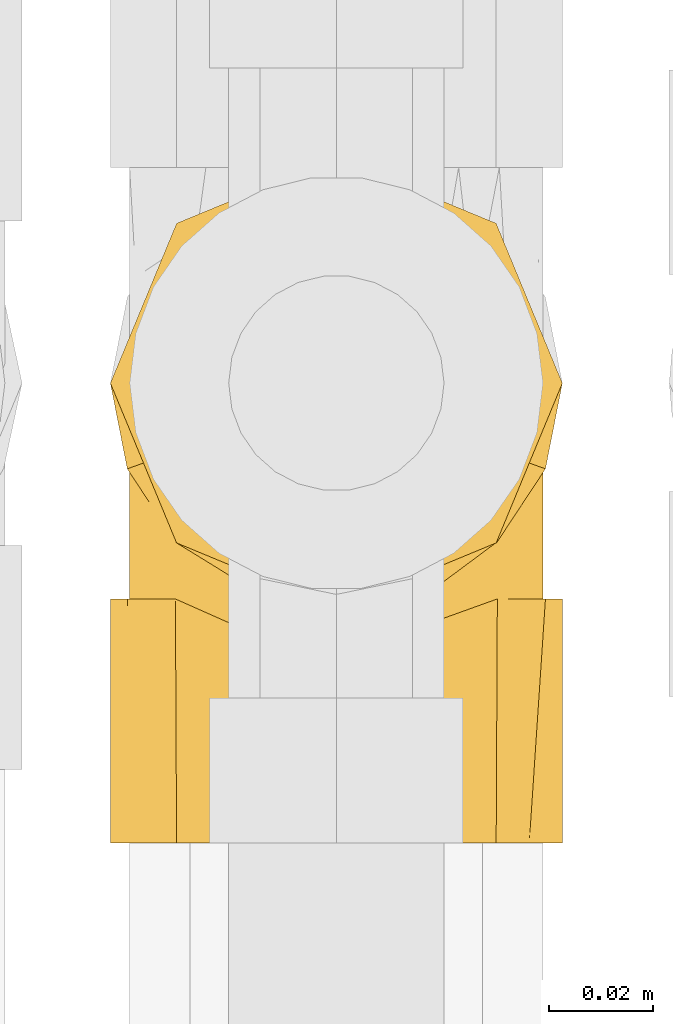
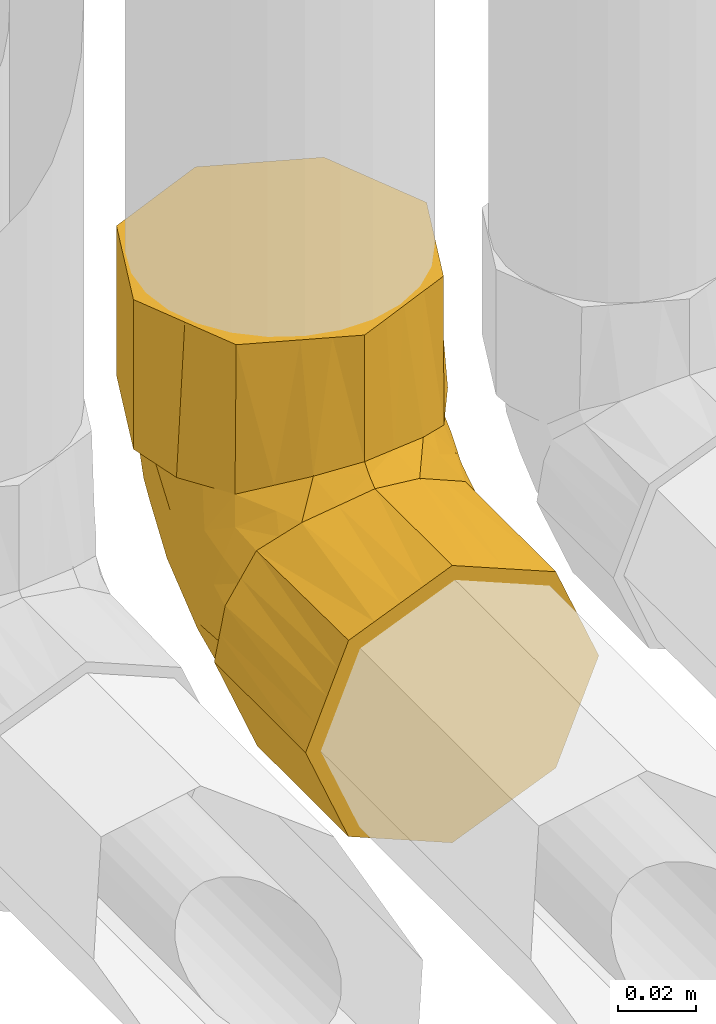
# One storey, part 234 of 652: 1 covering.
"""IFC2X3 building model written with IfcOpenShell, lengths in millimetres."""

from ifc_helpers import new_model, entity, si_unit, converted_unit, direction, frame, origin, place, context, subcontext, project, spatial, faceted_brep, material, type_object, element, save


model = new_model("IFC2X3")

# Units and contexts
model_context = context("Model", 3, precision=0.01, world=frame((0.0, 0.0, 308426.39999999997)), true_north=direction((6.123233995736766e-17, 1.0)))
plan_context = context("Plan", 3, precision=0.01, world=frame((0.0, 0.0, 308426.39999999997)), true_north=direction((6.123233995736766e-17, 1.0)))
body_context = subcontext(model_context, "Body", "Model", "MODEL_VIEW")
ifc_project = project(units=[si_unit("LENGTHUNIT", "METRE", prefix="MILLI"), si_unit("AREAUNIT", "SQUARE_METRE"), si_unit("VOLUMEUNIT", "CUBIC_METRE"), converted_unit("PLANEANGLEUNIT", "DEGREE", entity("IfcPlaneAngleMeasure", 0.017453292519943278), si_unit("PLANEANGLEUNIT", "RADIAN"), dimensions=[0, 0, 0, 0, 0, 0, 0])], contexts=[model_context, plan_context])

# Site, building, storey
site_placement = place(None, origin())
site = spatial("IfcSite", under=ifc_project, at=site_placement, Name="Default", CompositionType="ELEMENT")
building_placement = place(site_placement, origin())
building = spatial("IfcBuilding", under=site, at=building_placement, CompositionType="ELEMENT")
storey_placement = place(building_placement, frame((0.0, 0.0, 1730.6999999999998)))
storey = spatial("IfcBuildingStorey", under=building, at=storey_placement, Name="EG_Produktion_FFB", CompositionType="ELEMENT", Elevation=1730.6999999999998)

# Covering
ifc_material = material(Name="Dämmung - Armaflex-Schlauch")
covering_type = type_object("IfcCoveringType", Name="Rohrdämmung außen:Armaflex-Schlauch", PredefinedType="INSULATION")
covering_placement = place(storey_placement, frame((76635.09072776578, 51549.91060396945, 2355.090727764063)))
element("IfcCovering", 1, at=covering_placement, inside=storey, type_object=covering_type, material=ifc_material, Name="Rohrdämmung außen:Armaflex-Schlauch", ObjectType="Rohrdämmung außen:Armaflex-Schlauch", PredefinedType="INSULATION", context=body_context, shape_type="Brep", body=[
    faceted_brep([(1.5952722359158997, 46.75225000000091, 44.909272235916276), (3.2140241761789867, 46.75225000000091, 53.12476149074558), (4.83277611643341, 46.75225000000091, 61.34025074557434), (9.444991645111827, 46.75225000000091, 68.32552362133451), (14.057207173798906, 46.75225000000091, 75.3107964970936), (10.189917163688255, 46.75225000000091, 66.46746776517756), (6.322627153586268, 46.75225000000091, 57.62413903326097), (5.271772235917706, 46.75225000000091, 47.97735876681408), (8.801210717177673, 46.75225000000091, 40.30004078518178), (12.330649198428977, 46.75225000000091, 32.62272280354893), (16.11426416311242, 46.75225000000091, 24.39251412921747), (19.897879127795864, 46.75225000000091, 16.162305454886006), (28.598847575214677, 46.75225000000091, 13.007380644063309), (36.75405990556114, 46.75225000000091, 10.050344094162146), (44.909272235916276, 46.75225000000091, 7.0933075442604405), (52.722214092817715, 46.75225000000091, 10.991250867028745), (60.53515594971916, 46.75225000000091, 14.88919418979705), (68.3480978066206, 46.75225000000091, 18.787137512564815), (76.16103966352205, 46.75225000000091, 22.685080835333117), (79.16192692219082, 46.75225000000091, 31.736081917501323), (81.8543495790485, 46.75225000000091, 39.85672034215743), (84.54677223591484, 46.75225000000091, 47.97735876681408), (83.74827741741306, 46.75225000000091, 51.67763962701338), (82.94978259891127, 46.75225000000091, 55.37792048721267), (81.71182968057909, 46.75225000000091, 61.11468093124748), (80.47387676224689, 46.75225000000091, 66.85144137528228), (75.76133729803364, 46.75225000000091, 75.3107964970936), (80.37355282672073, 46.75225000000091, 68.32552362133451), (84.98576835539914, 46.75225000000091, 61.34025074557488), (86.43872591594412, 46.75225000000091, 53.966201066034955), (88.22327223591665, 46.75225000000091, 44.909272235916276), (84.75898186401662, 46.75225000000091, 36.54573543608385), (81.88008379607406, 46.75225000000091, 29.595460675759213), (78.70848957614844, 46.75225000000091, 21.93855489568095), (75.53689535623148, 46.75225000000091, 14.28164911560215), (67.87998957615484, 46.75225000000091, 11.11005489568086), (60.223083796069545, 46.75225000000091, 7.938460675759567), (53.27280775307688, 46.75225000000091, 5.059562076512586), (44.909272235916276, 46.75225000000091, 1.5952722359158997), (36.54573552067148, 46.75225000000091, 5.0595625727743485), (29.595460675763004, 46.75225000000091, 7.938460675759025), (21.938554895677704, 46.75225000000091, 11.110054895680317), (14.281649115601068, 46.75225000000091, 14.281649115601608), (11.110054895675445, 46.75225000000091, 21.93855489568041), (7.938460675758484, 46.75225000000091, 29.595460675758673), (5.059562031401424, 46.75225000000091, 36.545736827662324), (44.909272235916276, 0.0, 1.5952722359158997), (52.56617801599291, 0.0, 4.766866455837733), (60.223083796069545, 0.0, 7.938460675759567), (67.87998957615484, 0.0, 11.110054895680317), (75.53689535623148, 0.0, 14.28164911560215), (78.4157932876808, 0.0, 21.231923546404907), (81.29469121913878, 0.0, 28.18219797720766), (84.75898172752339, 0.0, 36.54573510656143), (88.22327223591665, 0.0, 44.909272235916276), (85.05167801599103, 0.0, 52.56617801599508), (81.88008379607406, 0.0, 60.22308379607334), (78.7084895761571, 0.0, 67.8799895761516), (75.53689535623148, 0.0, 75.5368953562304), (67.87998957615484, 0.0, 78.70848957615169), (60.223083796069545, 0.0, 81.88008379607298), (52.56617801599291, 0.0, 85.05167801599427), (44.909272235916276, 0.0, 88.22327223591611), (36.54573690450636, 0.0, 84.75898247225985), (29.595460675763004, 0.0, 81.88008379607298), (21.938554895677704, 0.0, 78.70848957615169), (14.281649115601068, 0.0, 75.5368953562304), (11.110054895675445, 0.0, 67.8799895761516), (7.938460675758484, 0.0, 60.22308379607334), (4.766866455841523, 0.0, 52.56617801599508), (1.5952722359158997, 0.0, 44.909272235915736), (4.766866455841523, 0.0, 37.252366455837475), (7.938460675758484, 0.0, 29.595460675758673), (11.110054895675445, 0.0, 21.938554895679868), (14.281649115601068, 0.0, 14.281649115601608), (21.938554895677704, 0.0, 11.110054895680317), (29.595460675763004, 0.0, 7.938460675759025), (37.25236645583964, 0.0, 4.766866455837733), (58.75537900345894, 40.63540735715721, 85.9505675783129), (54.574402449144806, 40.303936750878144, 86.63683448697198), (44.909272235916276, 39.53767878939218, 88.22327223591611), (67.25835815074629, 43.693828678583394, 80.63068203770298), (34.80170281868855, 40.77882270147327, 85.7199321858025), (24.694133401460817, 42.01996661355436, 83.21659213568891), (19.375670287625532, 44.3861083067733, 79.26369431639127), (1.5952722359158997, 88.1177500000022, 86.27477223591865), (5.059562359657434, 96.48128620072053, 86.27477223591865), (8.523852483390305, 104.84482240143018, 86.27477223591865), (11.402750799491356, 111.7950977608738, 86.27477223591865), (14.281649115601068, 118.74537312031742, 86.27477223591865), (21.938554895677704, 121.91696734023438, 86.27477223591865), (29.595460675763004, 125.08856156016, 86.27477223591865), (36.545736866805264, 127.96746022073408, 86.27477223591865), (44.909272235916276, 131.43175000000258, 86.27477223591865), (53.27280874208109, 127.96745974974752, 86.27477223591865), (60.223083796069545, 125.08856156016, 86.27477223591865), (67.87998957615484, 121.91696734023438, 86.27477223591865), (75.53689535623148, 118.74537312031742, 86.27477223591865), (78.7084895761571, 111.08846734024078, 86.27477223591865), (81.88008379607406, 103.43156156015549, 86.27477223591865), (84.75898225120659, 96.48128586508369, 86.27477223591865), (88.22327223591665, 88.1177500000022, 86.27477223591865), (86.43872569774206, 79.06082006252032, 86.27477223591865), (84.98576835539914, 71.68677149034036, 86.27477223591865), (80.37355282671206, 64.70149861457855, 86.27477223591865), (75.76133729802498, 57.71622573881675, 86.27477223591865), (79.62862730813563, 66.55955447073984, 86.27477223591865), (83.49591731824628, 75.40288320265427, 86.27477223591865), (84.54677223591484, 85.04966346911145, 86.27477223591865), (80.89024551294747, 93.00342679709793, 86.27477223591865), (77.23371878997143, 100.95719012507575, 86.27477223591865), (73.57719206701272, 108.91095345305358, 86.2747722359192), (69.92066534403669, 116.86471678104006, 86.27477223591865), (57.414968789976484, 121.39921573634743, 86.27477223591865), (53.06448504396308, 122.976677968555, 86.27477223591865), (44.909272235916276, 125.93371469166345, 86.27477223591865), (37.09633037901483, 122.035771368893, 86.27477223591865), (29.283388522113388, 118.13782804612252, 86.27477223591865), (21.470446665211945, 114.23988472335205, 86.27477223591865), (13.6575048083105, 110.34194140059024, 86.27477223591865), (9.464638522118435, 97.69580243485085, 86.27477223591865), (5.271772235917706, 85.04966346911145, 86.27477223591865), (6.070267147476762, 81.34938217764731, 86.27477223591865), (6.86876205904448, 77.64910088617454, 86.27477223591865), (8.1067148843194, 71.91234087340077, 86.27477223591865), (9.344667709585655, 66.175580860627, 86.27477223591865), (14.05720717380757, 57.71622573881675, 86.27477223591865), (9.44499164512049, 64.70149861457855, 86.27477223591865), (4.83277611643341, 71.68677149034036, 86.27477223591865), (3.3798185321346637, 79.06082129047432, 86.27477223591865), (44.909272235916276, 44.803750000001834, 133.02702223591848), (53.272807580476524, 48.26803976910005, 133.02702223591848), (60.223083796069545, 51.14693843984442, 133.02702223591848), (67.87998957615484, 54.31853265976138, 133.02702223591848), (75.53689535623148, 57.490126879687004, 133.02702223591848), (78.7084895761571, 65.14703265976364, 133.02702223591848), (81.88008379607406, 72.80393843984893, 133.02702223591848), (85.05167801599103, 80.46084421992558, 133.02702223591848), (88.22327223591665, 88.1177500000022, 133.02702223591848), (85.05167801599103, 95.77465578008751, 133.02702223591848), (81.88008379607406, 103.43156156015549, 133.02702223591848), (78.7084895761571, 111.08846734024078, 133.02702223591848), (75.53689535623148, 118.74537312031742, 133.02702223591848), (68.58662082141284, 121.62427109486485, 133.02702223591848), (61.636346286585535, 124.50316906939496, 133.02702223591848), (53.27280926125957, 127.96745953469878, 133.02702223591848), (44.909272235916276, 131.43175000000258, 133.02702223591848), (37.25236645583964, 128.26015578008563, 133.02702223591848), (29.595460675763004, 125.08856156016, 133.02702223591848), (21.938554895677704, 121.91696734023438, 133.02702223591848), (14.281649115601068, 118.74537312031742, 133.02702223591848), (11.110054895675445, 111.08846734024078, 133.02702223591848), (7.938460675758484, 103.43156156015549, 133.02702223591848), (4.766866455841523, 95.77465578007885, 133.02702223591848), (1.5952722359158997, 88.1177500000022, 133.02702223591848), (4.766866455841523, 80.46084421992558, 133.02702223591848), (7.938460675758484, 72.80393843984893, 133.02702223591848), (11.110054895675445, 65.14703265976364, 133.02702223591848), (14.281649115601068, 57.490126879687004, 133.02702223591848), (21.938554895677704, 54.31853265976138, 133.02702223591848), (29.59546067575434, 51.14693843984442, 133.02702223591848), (37.25236645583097, 47.975344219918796, 133.02702223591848), (44.909272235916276, 44.803750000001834, 93.48934344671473), (55.01684165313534, 47.30709005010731, 92.24819953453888), (65.12441107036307, 49.810430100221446, 91.00705562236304), (70.44287418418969, 53.76332791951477, 88.64091392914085), (31.063165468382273, 47.076454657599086, 92.39161487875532), (35.24414219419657, 46.39018772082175, 92.72308549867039), (22.56018632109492, 52.396340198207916, 89.33319355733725), (81.09318334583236, 74.01999786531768, 44.29272679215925), (80.35462521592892, 92.25250320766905, 61.224687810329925), (83.62783125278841, 79.88012577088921, 60.29531093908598), (77.29128021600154, 66.38050195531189, 31.557835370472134), (64.2599094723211, 81.39388521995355, 26.91843689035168), (54.28195365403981, 89.94328275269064, 28.402682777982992), (63.722662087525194, 96.00570682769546, 38.831289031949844), (74.64394109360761, 91.23223447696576, 46.404880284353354), (65.33151838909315, 64.42758016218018, 18.358772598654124), (83.68905092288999, 64.65714810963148, 47.48701454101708), (53.254009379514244, 113.56925852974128, 55.68490173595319), (53.21106991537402, 120.355997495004, 69.91818355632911), (59.68883166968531, 117.26951448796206, 67.54260588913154), (54.90746421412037, 68.47941466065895, 15.345947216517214), (71.24492500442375, 72.14375295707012, 26.99671515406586), (84.54677223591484, 63.332343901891, 56.50951300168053), (71.08909930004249, 108.15356104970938, 64.54997781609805), (77.47444134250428, 102.62059617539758, 69.53167957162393), (44.909272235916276, 61.65182754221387, 16.181261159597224), (56.49800005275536, 102.77672050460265, 41.8040430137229), (44.909272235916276, 106.35056016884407, 43.44512200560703), (44.909272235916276, 116.14213743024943, 64.85994712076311), (44.909272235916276, 117.76990778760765, 68.41998822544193), (44.909272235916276, 76.55140508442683, 25.269214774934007), (69.82577363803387, 87.27700719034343, 36.188870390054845), (44.909272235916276, 91.45098262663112, 34.357168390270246), (62.77103932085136, 108.0485537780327, 53.115055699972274), (69.36834535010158, 99.90633679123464, 48.91521205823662), (84.54677223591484, 80.36065574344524, 79.8481259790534), (84.54677223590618, 75.67164801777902, 73.42147972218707), (84.54677223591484, 74.1910036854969, 71.3921426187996), (84.54677223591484, 69.50199595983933, 64.9654963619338), (84.54677223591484, 55.04229695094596, 52.243435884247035), (84.54677223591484, 50.332074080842, 49.819544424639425), (83.21561390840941, 56.26094341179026, 63.98032098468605), (77.57009588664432, 54.556266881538, 78.47075548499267), (80.01647633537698, 53.210297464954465, 71.91515371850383), (82.50076779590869, 60.665580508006, 70.61788542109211), (44.909272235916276, 42.40915936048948, 90.61786287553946), (69.11943588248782, 48.46855326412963, 85.0085057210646), (83.42582518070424, 70.60278023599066, 77.60873386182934), (80.87166183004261, 62.687122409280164, 79.02624860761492), (83.31704110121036, 66.58610433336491, 72.88436373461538), (6.36983714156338, 55.273856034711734, 62.21893555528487), (5.271772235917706, 53.91189816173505, 51.6617300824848), (20.699109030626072, 48.01851602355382, 84.55846896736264), (12.277698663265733, 54.52623062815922, 78.50079173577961), (7.774699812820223, 62.42306103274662, 74.28266464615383), (8.780218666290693, 54.56229555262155, 70.30863802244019), (6.031535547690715, 62.60173052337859, 65.81985919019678), (5.8858975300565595, 67.3478940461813, 69.42283832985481), (5.271772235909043, 82.70515960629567, 83.06144910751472), (5.271772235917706, 80.36065574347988, 79.84812597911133), (5.271772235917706, 75.67164801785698, 73.42147972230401), (5.2717722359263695, 69.50199595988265, 64.96549636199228), (6.411600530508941, 70.02439853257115, 76.87129451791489), (5.271772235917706, 63.332343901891, 56.50951300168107), (5.271772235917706, 74.1910036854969, 71.3921426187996), (17.88358938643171, 61.51531506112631, 22.537484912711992), (12.125086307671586, 64.01585241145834, 31.011923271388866), (16.90165112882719, 76.32579608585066, 31.39918384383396), (6.9647082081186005, 89.04415059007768, 67.82791372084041), (37.456410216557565, 86.64351262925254, 25.3277836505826), (21.961010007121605, 91.47388821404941, 37.969918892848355), (24.76338004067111, 69.77767080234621, 20.63187835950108), (8.181328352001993, 66.67052170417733, 40.84519504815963), (6.1333731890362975, 61.929689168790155, 45.81207626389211), (15.727702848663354, 106.7224160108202, 68.31732060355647), (15.418239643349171, 93.33205701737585, 48.33488043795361), (10.995633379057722, 99.1733978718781, 67.31173150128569), (6.282339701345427, 74.7537902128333, 54.40590080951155), (9.351008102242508, 84.37906523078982, 51.80866110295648), (33.31902489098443, 113.46460816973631, 57.20705970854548), (37.185424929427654, 100.8009470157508, 38.09519508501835), (30.50188918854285, 103.97247135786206, 44.80832799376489), (35.010191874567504, 67.93556611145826, 15.07349009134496), (21.40322444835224, 106.99731105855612, 57.98843776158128), (30.26940447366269, 92.12128292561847, 32.44253809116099)], [[[0, 1, 2, 3, 4, 5, 6, 7, 8, 9, 10, 11, 12, 13, 14, 15, 16, 17, 18, 19, 20, 21, 22, 23, 24, 25, 26, 27, 28, 29, 30, 31, 32, 33, 34, 35, 36, 37, 38, 39, 40, 41, 42, 43, 44, 45]], [[46, 47, 48, 49, 50, 51, 52, 53, 54, 55, 56, 57, 58, 59, 60, 61, 62, 63, 64, 65, 66, 67, 68, 69, 70, 71, 72, 73, 74, 75, 76, 77]], [[26, 58, 57]], [[27, 26, 57]], [[61, 78, 79, 80]], [[30, 29, 55]], [[78, 60, 81]], [[29, 56, 55]], [[56, 28, 27]], [[30, 55, 54]], [[56, 27, 57]], [[56, 29, 28]], [[61, 80, 62]], [[58, 81, 60, 59]], [[61, 60, 78]], [[58, 26, 81]], [[31, 30, 54, 53, 52, 51, 50, 34, 33, 32]], [[34, 50, 49, 48, 47, 46, 38, 37, 36, 35]], [[0, 45, 44, 43, 42, 74, 73, 72, 71, 70]], [[76, 75, 74, 42, 41, 40, 39, 38, 46, 77]], [[70, 1, 0]], [[3, 2, 68]], [[82, 64, 63]], [[4, 67, 66]], [[3, 68, 67]], [[65, 83, 84, 4]], [[64, 82, 83]], [[68, 2, 69]], [[1, 70, 69]], [[63, 80, 82]], [[69, 2, 1]], [[67, 4, 3]], [[63, 62, 80]], [[65, 4, 66]], [[65, 64, 83]], [[85, 86, 87, 88, 89, 90, 91, 92, 93, 94, 95, 96, 97, 98, 99, 100, 101, 102, 103, 104, 105, 106, 107, 108, 109, 110, 111, 112, 113, 114, 115, 116, 117, 118, 119, 120, 121, 122, 123, 124, 125, 126, 127, 128, 129]], [[130, 131, 132, 133, 134, 135, 136, 137, 138, 139, 140, 141, 142, 143, 144, 145, 146, 147, 148, 149, 150, 151, 152, 153, 154, 155, 156, 157, 158, 159, 160, 161]], [[144, 143, 142, 97, 96, 95, 94, 93, 146, 145]], [[97, 142, 141, 140, 139, 138, 101, 100, 99, 98]], [[136, 102, 137]], [[105, 135, 134]], [[131, 130, 162]], [[101, 137, 102]], [[104, 136, 135]], [[104, 103, 136]], [[132, 163, 164]], [[163, 132, 131]], [[133, 164, 165, 105]], [[131, 162, 163]], [[101, 138, 137]], [[135, 105, 104]], [[102, 136, 103]], [[133, 105, 134]], [[133, 132, 164]], [[161, 162, 130]], [[85, 129, 155]], [[161, 166, 167, 162]], [[156, 128, 127]], [[166, 160, 168]], [[129, 156, 155]], [[157, 156, 127]], [[85, 155, 154]], [[158, 168, 160, 159]], [[156, 129, 128]], [[161, 160, 166]], [[158, 126, 168]], [[126, 157, 127]], [[126, 158, 157]], [[150, 89, 88, 87, 86, 85, 154, 153, 152, 151]], [[89, 150, 149, 148, 147, 146, 93, 92, 91, 90]], [[169, 170, 171]], [[19, 172, 169]], [[173, 174, 175]], [[176, 170, 169]], [[17, 16, 177]], [[21, 20, 178]], [[179, 180, 181]], [[182, 177, 16]], [[178, 20, 169]], [[19, 18, 172]], [[18, 17, 183]], [[20, 19, 169]], [[184, 178, 171]], [[185, 186, 176]], [[176, 169, 172]], [[176, 172, 183]], [[15, 187, 182]], [[183, 17, 177]], [[186, 111, 110]], [[175, 174, 188]], [[179, 189, 190, 191]], [[182, 173, 177]], [[183, 177, 173]], [[182, 16, 15]], [[173, 182, 174]], [[182, 192, 174]], [[173, 175, 193]], [[183, 172, 18]], [[188, 194, 189]], [[189, 179, 188]], [[185, 195, 181]], [[109, 170, 110]], [[185, 112, 111]], [[170, 186, 110]], [[196, 185, 176]], [[170, 109, 171]], [[171, 108, 197, 198, 199, 200, 184]], [[176, 186, 170]], [[185, 111, 186]], [[179, 181, 195]], [[108, 171, 109]], [[185, 181, 112]], [[181, 180, 113]], [[188, 179, 195]], [[188, 195, 175]], [[174, 194, 188]], [[196, 195, 185]], [[196, 176, 193]], [[115, 114, 113, 180]], [[112, 181, 113]], [[179, 191, 180]], [[115, 180, 191]], [[171, 178, 169]], [[174, 192, 194]], [[178, 184, 201, 202, 21]], [[187, 15, 14]], [[187, 192, 182]], [[193, 176, 183]], [[195, 196, 175]], [[173, 193, 183]], [[175, 196, 193]], [[203, 25, 24]], [[204, 26, 205]], [[206, 205, 203]], [[207, 80, 79]], [[203, 200, 206]], [[208, 165, 164]], [[78, 164, 163]], [[209, 107, 106]], [[204, 205, 206]], [[204, 210, 105]], [[107, 198, 197, 108]], [[210, 204, 206]], [[210, 209, 106]], [[79, 163, 207]], [[163, 79, 78]], [[207, 163, 162]], [[209, 210, 211]], [[198, 209, 211]], [[204, 165, 208]], [[78, 81, 26, 208]], [[105, 210, 106]], [[210, 206, 211]], [[208, 26, 204]], [[107, 209, 198]], [[204, 105, 165]], [[78, 208, 164]], [[26, 25, 205]], [[203, 205, 25]], [[202, 201, 24, 23, 22, 21]], [[200, 203, 184]], [[201, 203, 24]], [[203, 201, 184]], [[206, 200, 211]], [[211, 200, 199, 198]], [[207, 82, 80]], [[212, 213, 6]], [[84, 214, 215]], [[125, 216, 126]], [[7, 6, 213]], [[4, 217, 5]], [[218, 217, 216]], [[216, 217, 215]], [[167, 166, 82]], [[216, 215, 126]], [[166, 83, 82]], [[219, 218, 216]], [[215, 217, 4]], [[84, 83, 214]], [[122, 121, 220, 221, 222, 124, 123]], [[207, 162, 167]], [[218, 219, 223]], [[125, 224, 216]], [[6, 5, 212]], [[167, 82, 207]], [[166, 168, 126, 214]], [[218, 212, 217]], [[215, 4, 84]], [[214, 126, 215]], [[166, 214, 83]], [[223, 225, 218]], [[212, 218, 225]], [[212, 225, 213]], [[217, 212, 5]], [[216, 224, 219]], [[222, 224, 124]], [[219, 222, 226, 223]], [[224, 125, 124]], [[222, 219, 224]], [[227, 228, 229]], [[230, 121, 120]], [[194, 192, 231]], [[232, 233, 229]], [[234, 8, 235]], [[236, 237, 238]], [[9, 228, 10]], [[234, 235, 239]], [[240, 234, 239]], [[119, 236, 238]], [[241, 242, 243]], [[235, 7, 213, 225]], [[227, 11, 10]], [[9, 8, 234]], [[12, 233, 244]], [[227, 233, 11]], [[230, 226, 222, 221, 220, 121]], [[238, 237, 240]], [[241, 117, 116]], [[239, 230, 240]], [[239, 226, 230]], [[240, 230, 238]], [[238, 230, 120]], [[120, 119, 238]], [[118, 245, 236]], [[241, 245, 117]], [[237, 232, 229]], [[245, 243, 232]], [[229, 240, 237]], [[187, 13, 244]], [[233, 12, 11]], [[194, 231, 242]], [[246, 244, 233]], [[244, 192, 187]], [[239, 225, 223, 226]], [[228, 240, 229]], [[9, 234, 228]], [[240, 228, 234]], [[231, 244, 246]], [[194, 242, 189]], [[245, 232, 237]], [[233, 232, 246]], [[228, 227, 10]], [[233, 227, 229]], [[116, 190, 241]], [[190, 189, 241]], [[116, 115, 191, 190]], [[244, 231, 192]], [[231, 246, 242]], [[243, 242, 246]], [[241, 189, 242]], [[232, 243, 246]], [[245, 241, 243]], [[7, 235, 8]], [[225, 239, 235]], [[118, 117, 245]], [[237, 236, 245]], [[236, 119, 118]], [[13, 187, 14]], [[13, 12, 244]]]),
])

save(model, "model.ifc")
